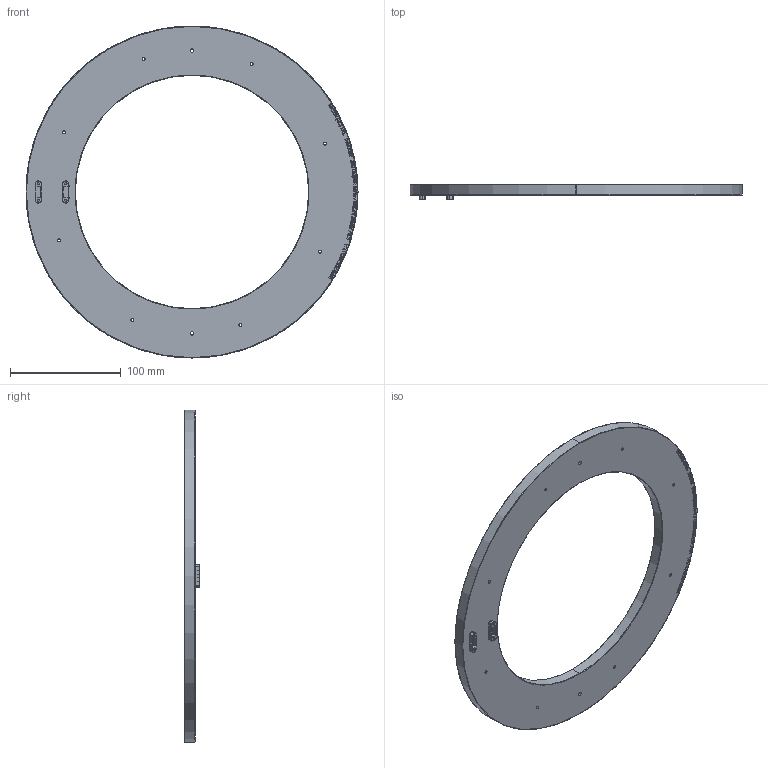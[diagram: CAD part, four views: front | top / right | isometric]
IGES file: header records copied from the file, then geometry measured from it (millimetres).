
Start section: SolidWorks IGES file using analytic representation for surfaces
Global section: file name: C:\Zettlex Data\Mechanical Drawings\1011\300 Duplex Screw Mount Stator AC1 Rev 1-2.IGS; native system: SolidWorks 2015; preprocessor: SolidWorks 2015; author: Nigel; date: 150914.153320; units: millimetre
Bounding box: 300 x 13.8 x 300 mm (x, y, z)
Surface area: 88948.5 mm2 (no closed solid volume)
Topology: 0 solids, 0 shells, 923 faces, 10860 edges, 10860 vertices
Faces by surface type: bspline 862, revolution 61
